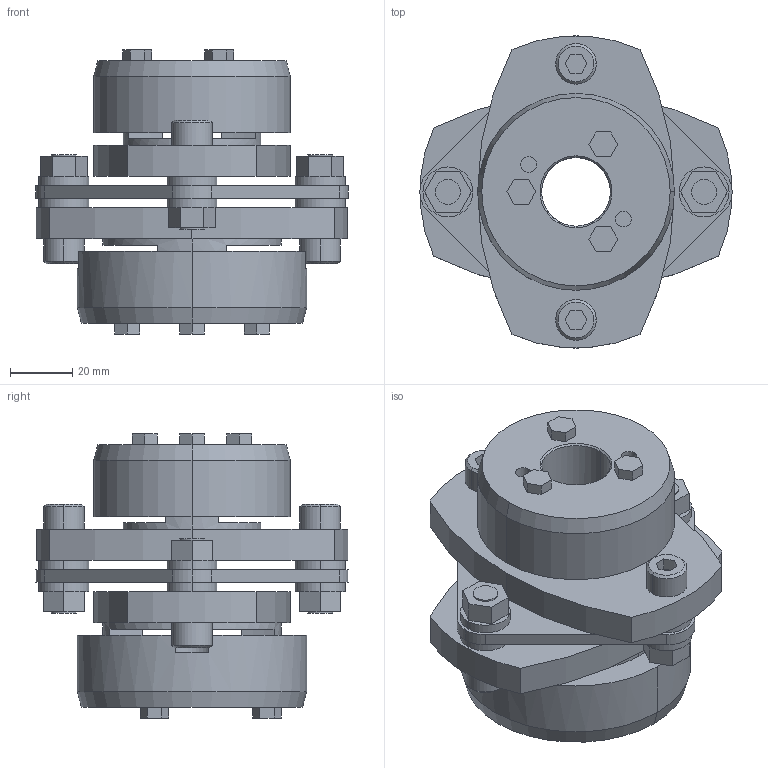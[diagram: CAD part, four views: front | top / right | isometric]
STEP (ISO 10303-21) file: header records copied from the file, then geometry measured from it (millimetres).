
FILE_DESCRIPTION((''),'2;1');
FILE_NAME('LCS-100T7-22×35.stp','2011-09-08T16:59:52',(''),(''),'AutoCAD STEP 2000i','AutoCAD 2000i',', , ');
FILE_SCHEMA(('CONFIG_CONTROL_DESIGN'));
Length unit declared in the file: millimetre
Products named in the file (8): LCS-100T7-22×35; 忣兜1; LC100T7-T035; LC100T7-T030; LC100T7-T025; LC100T7-T022-1; LC100T7-T022; LCS100-ITA
Assembly tree (7 placements, depth 2):
  LCS-100T7-22×35
    忣兜1
    LC100T7-T035
    LC100T7-T030
    LC100T7-T025
    LC100T7-T022-1
    LC100T7-T022
    LCS100-ITA
Bounding box: 100 x 99.93 x 91 mm (x, y, z)
Volume: 267646.7 mm3; surface area: 65027.7 mm2
Topology: 1 solids, 1 shells, 236 faces, 580 edges, 380 vertices
Faces by surface type: plane 134, cylinder 82, cone 20
Entity records: 7217 total; most frequent: DIRECTION 1272, CARTESIAN_POINT 1204, ORIENTED_EDGE 1160, EDGE_CURVE 580, AXIS2_PLACEMENT_3D 448, VERTEX_POINT 380, VECTOR 376, LINE 376
